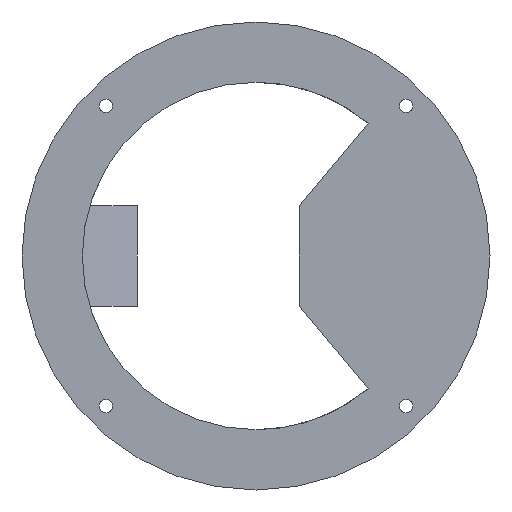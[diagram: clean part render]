
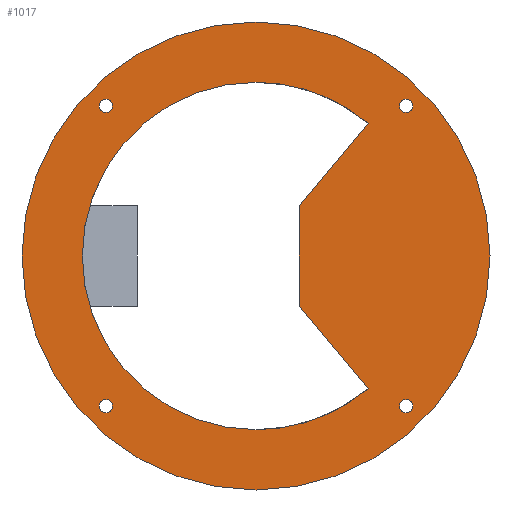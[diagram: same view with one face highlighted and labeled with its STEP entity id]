
A CAD part, front view. The second image highlights one B-rep face of the part: STEP entity #1017.
In plain terms, the highlighted planar face has unit normal (0, -1, 0).
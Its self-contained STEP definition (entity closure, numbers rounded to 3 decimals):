
#5 = DIRECTION ( 'NONE',  ( 0., 1., 0. ) ) ;
#10 = LINE ( 'NONE', #745, #635 ) ;
#24 = AXIS2_PLACEMENT_3D ( 'NONE', #359, #1328, #196 ) ;
#42 = AXIS2_PLACEMENT_3D ( 'NONE', #1684, #381, #954 ) ;
#61 = EDGE_CURVE ( 'NONE', #1746, #899, #1126, .T. ) ;
#68 = DIRECTION ( 'NONE',  ( 0., 1., 0. ) ) ;
#69 = DIRECTION ( 'NONE',  ( 0., 0., 1. ) ) ;
#72 = DIRECTION ( 'NONE',  ( 0., 1., 0. ) ) ;
#76 = ORIENTED_EDGE ( 'NONE', *, *, #1364, .T. ) ;
#88 = EDGE_CURVE ( 'NONE', #1719, #1680, #943, .T. ) ;
#105 = ORIENTED_EDGE ( 'NONE', *, *, #1243, .F. ) ;
#117 = CARTESIAN_POINT ( 'NONE',  ( 0., 0., 60.625 ) ) ;
#125 = DIRECTION ( 'NONE',  ( 0., 0., 1. ) ) ;
#132 = CARTESIAN_POINT ( 'NONE',  ( 0., 0., 0. ) ) ;
#155 = VERTEX_POINT ( 'NONE', #412 ) ;
#163 = CIRCLE ( 'NONE', #1122, 1.7 ) ;
#165 = VERTEX_POINT ( 'NONE', #117 ) ;
#173 = DIRECTION ( 'NONE',  ( 0., 0., 1. ) ) ;
#195 = ORIENTED_EDGE ( 'NONE', *, *, #1536, .T. ) ;
#196 = DIRECTION ( 'NONE',  ( 0., 0., 1. ) ) ;
#205 = CARTESIAN_POINT ( 'NONE',  ( 38.891, 0., -38.891 ) ) ;
#214 = CIRCLE ( 'NONE', #636, 45. ) ;
#221 = AXIS2_PLACEMENT_3D ( 'NONE', #1883, #541, #692 ) ;
#233 = CIRCLE ( 'NONE', #1778, 60.625 ) ;
#261 = DIRECTION ( 'NONE',  ( 0., 0., -1. ) ) ;
#269 = DIRECTION ( 'NONE',  ( 0., 0., 1. ) ) ;
#295 = CARTESIAN_POINT ( 'NONE',  ( -38.891, 0., -40.591 ) ) ;
#306 = CIRCLE ( 'NONE', #670, 1.7 ) ;
#310 = VECTOR ( 'NONE', #261, 1000. ) ;
#311 = EDGE_CURVE ( 'NONE', #155, #719, #553, .T. ) ;
#312 = ORIENTED_EDGE ( 'NONE', *, *, #1449, .T. ) ;
#317 = ORIENTED_EDGE ( 'NONE', *, *, #61, .T. ) ;
#354 = EDGE_LOOP ( 'NONE', ( #669, #76 ) ) ;
#359 = CARTESIAN_POINT ( 'NONE',  ( 0., 0., 0. ) ) ;
#376 = VERTEX_POINT ( 'NONE', #517 ) ;
#381 = DIRECTION ( 'NONE',  ( 0., 1., 0. ) ) ;
#398 = VERTEX_POINT ( 'NONE', #918 ) ;
#400 = FACE_BOUND ( 'NONE', #834, .T. ) ;
#412 = CARTESIAN_POINT ( 'NONE',  ( -38.891, 0., 37.191 ) ) ;
#430 = ORIENTED_EDGE ( 'NONE', *, *, #956, .F. ) ;
#448 = ORIENTED_EDGE ( 'NONE', *, *, #1143, .F. ) ;
#460 = ORIENTED_EDGE ( 'NONE', *, *, #1754, .T. ) ;
#464 = CARTESIAN_POINT ( 'NONE',  ( 0., 0., -45. ) ) ;
#476 = AXIS2_PLACEMENT_3D ( 'NONE', #936, #1809, #1527 ) ;
#487 = DIRECTION ( 'NONE',  ( 0., 1., 0. ) ) ;
#490 = DIRECTION ( 'NONE',  ( 0., 0., 1. ) ) ;
#496 = LINE ( 'NONE', #1221, #1712 ) ;
#501 = CARTESIAN_POINT ( 'NONE',  ( 38.891, 0., 38.891 ) ) ;
#507 = DIRECTION ( 'NONE',  ( 0., 0., 1. ) ) ;
#512 = FACE_OUTER_BOUND ( 'NONE', #648, .T. ) ;
#515 = CARTESIAN_POINT ( 'NONE',  ( 11.25, 0., -13. ) ) ;
#517 = CARTESIAN_POINT ( 'NONE',  ( 38.891, 0., 37.191 ) ) ;
#541 = DIRECTION ( 'NONE',  ( 0., 1., 0. ) ) ;
#544 = ORIENTED_EDGE ( 'NONE', *, *, #88, .T. ) ;
#547 = CARTESIAN_POINT ( 'NONE',  ( 29.067, 0., 34.352 ) ) ;
#553 = CIRCLE ( 'NONE', #221, 1.7 ) ;
#556 = EDGE_LOOP ( 'NONE', ( #681, #1804 ) ) ;
#597 = CARTESIAN_POINT ( 'NONE',  ( 38.891, 0., -37.191 ) ) ;
#623 = VERTEX_POINT ( 'NONE', #686 ) ;
#625 = VERTEX_POINT ( 'NONE', #547 ) ;
#635 = VECTOR ( 'NONE', #1739, 1000. ) ;
#636 = AXIS2_PLACEMENT_3D ( 'NONE', #1580, #1608, #125 ) ;
#648 = EDGE_LOOP ( 'NONE', ( #105, #430 ) ) ;
#656 = CIRCLE ( 'NONE', #1494, 1.7 ) ;
#661 = DIRECTION ( 'NONE',  ( 0.641, 0., -0.768 ) ) ;
#669 = ORIENTED_EDGE ( 'NONE', *, *, #1180, .T. ) ;
#670 = AXIS2_PLACEMENT_3D ( 'NONE', #205, #487, #1065 ) ;
#681 = ORIENTED_EDGE ( 'NONE', *, *, #1028, .T. ) ;
#686 = CARTESIAN_POINT ( 'NONE',  ( 38.891, 0., 40.591 ) ) ;
#688 = DIRECTION ( 'NONE',  ( 0., 0., 1. ) ) ;
#692 = DIRECTION ( 'NONE',  ( 0., 0., 1. ) ) ;
#719 = VERTEX_POINT ( 'NONE', #1630 ) ;
#743 = ORIENTED_EDGE ( 'NONE', *, *, #1845, .T. ) ;
#745 = CARTESIAN_POINT ( 'NONE',  ( 11.25, 0., 13. ) ) ;
#750 = CARTESIAN_POINT ( 'NONE',  ( -38.891, 0., 38.891 ) ) ;
#763 = VERTEX_POINT ( 'NONE', #597 ) ;
#767 = ORIENTED_EDGE ( 'NONE', *, *, #1721, .T. ) ;
#770 = DIRECTION ( 'NONE',  ( 0., 1., 0. ) ) ;
#771 = ORIENTED_EDGE ( 'NONE', *, *, #1340, .T. ) ;
#800 = CARTESIAN_POINT ( 'NONE',  ( 11.25, 0., 13. ) ) ;
#823 = CIRCLE ( 'NONE', #24, 60.625 ) ;
#834 = EDGE_LOOP ( 'NONE', ( #460, #767 ) ) ;
#835 = FACE_BOUND ( 'NONE', #1144, .T. ) ;
#837 = CARTESIAN_POINT ( 'NONE',  ( 0., 0., 0. ) ) ;
#871 = CARTESIAN_POINT ( 'NONE',  ( 0., 0., 0. ) ) ;
#899 = VERTEX_POINT ( 'NONE', #515 ) ;
#903 = CIRCLE ( 'NONE', #1082, 1.7 ) ;
#918 = CARTESIAN_POINT ( 'NONE',  ( 0., 0., -60.625 ) ) ;
#936 = CARTESIAN_POINT ( 'NONE',  ( 38.891, 0., 38.891 ) ) ;
#943 = CIRCLE ( 'NONE', #1748, 45. ) ;
#945 = DIRECTION ( 'NONE',  ( 0., 0., 1. ) ) ;
#954 = DIRECTION ( 'NONE',  ( 0., 0., 1. ) ) ;
#956 = EDGE_CURVE ( 'NONE', #165, #398, #233, .T. ) ;
#1016 = CARTESIAN_POINT ( 'NONE',  ( 38.891, 0., -40.591 ) ) ;
#1017 = ADVANCED_FACE ( 'NONE', ( #1112, #1722, #400, #1577, #512, #835 ), #1093, .F. ) ;
#1028 = EDGE_CURVE ( 'NONE', #719, #155, #656, .T. ) ;
#1053 = CIRCLE ( 'NONE', #1618, 45. ) ;
#1056 = CARTESIAN_POINT ( 'NONE',  ( 38.891, 0., -38.891 ) ) ;
#1065 = DIRECTION ( 'NONE',  ( 0., 0., 1. ) ) ;
#1073 = CARTESIAN_POINT ( 'NONE',  ( -38.891, 0., -38.891 ) ) ;
#1082 = AXIS2_PLACEMENT_3D ( 'NONE', #1073, #1672, #945 ) ;
#1093 = PLANE ( 'NONE',  #42 ) ;
#1107 = CARTESIAN_POINT ( 'NONE',  ( -38.891, 0., -37.191 ) ) ;
#1112 = FACE_BOUND ( 'NONE', #354, .T. ) ;
#1122 = AXIS2_PLACEMENT_3D ( 'NONE', #501, #72, #490 ) ;
#1124 = VERTEX_POINT ( 'NONE', #295 ) ;
#1126 = LINE ( 'NONE', #1447, #310 ) ;
#1134 = DIRECTION ( 'NONE',  ( 0., 1., 0. ) ) ;
#1143 = EDGE_CURVE ( 'NONE', #1746, #625, #10, .T. ) ;
#1144 = EDGE_LOOP ( 'NONE', ( #448, #317, #771, #544, #195, #312 ) ) ;
#1156 = CIRCLE ( 'NONE', #1469, 1.7 ) ;
#1180 = EDGE_CURVE ( 'NONE', #1814, #1124, #1526, .T. ) ;
#1221 = CARTESIAN_POINT ( 'NONE',  ( 11.25, 0., -13. ) ) ;
#1243 = EDGE_CURVE ( 'NONE', #398, #165, #823, .T. ) ;
#1304 = DIRECTION ( 'NONE',  ( 0., 1., 0. ) ) ;
#1325 = EDGE_CURVE ( 'NONE', #1522, #763, #306, .T. ) ;
#1328 = DIRECTION ( 'NONE',  ( 0., 1., 0. ) ) ;
#1340 = EDGE_CURVE ( 'NONE', #899, #1719, #496, .T. ) ;
#1364 = EDGE_CURVE ( 'NONE', #1124, #1814, #903, .T. ) ;
#1426 = DIRECTION ( 'NONE',  ( 0., 1., 0. ) ) ;
#1427 = DIRECTION ( 'NONE',  ( 0., 0., 1. ) ) ;
#1447 = CARTESIAN_POINT ( 'NONE',  ( 11.25, 0., 13. ) ) ;
#1449 = EDGE_CURVE ( 'NONE', #1632, #625, #214, .T. ) ;
#1466 = CIRCLE ( 'NONE', #476, 1.7 ) ;
#1469 = AXIS2_PLACEMENT_3D ( 'NONE', #1056, #68, #507 ) ;
#1494 = AXIS2_PLACEMENT_3D ( 'NONE', #750, #1304, #173 ) ;
#1500 = CARTESIAN_POINT ( 'NONE',  ( 0., 0., 45. ) ) ;
#1522 = VERTEX_POINT ( 'NONE', #1016 ) ;
#1526 = CIRCLE ( 'NONE', #1769, 1.7 ) ;
#1527 = DIRECTION ( 'NONE',  ( 0., 0., 1. ) ) ;
#1536 = EDGE_CURVE ( 'NONE', #1680, #1632, #1053, .T. ) ;
#1577 = FACE_BOUND ( 'NONE', #1658, .T. ) ;
#1580 = CARTESIAN_POINT ( 'NONE',  ( 0., 0., 0. ) ) ;
#1608 = DIRECTION ( 'NONE',  ( 0., 1., 0. ) ) ;
#1618 = AXIS2_PLACEMENT_3D ( 'NONE', #871, #5, #1427 ) ;
#1630 = CARTESIAN_POINT ( 'NONE',  ( -38.891, 0., 40.591 ) ) ;
#1632 = VERTEX_POINT ( 'NONE', #1500 ) ;
#1633 = ORIENTED_EDGE ( 'NONE', *, *, #1325, .T. ) ;
#1634 = CARTESIAN_POINT ( 'NONE',  ( -38.891, 0., -38.891 ) ) ;
#1636 = CARTESIAN_POINT ( 'NONE',  ( 29.067, 0., -34.352 ) ) ;
#1658 = EDGE_LOOP ( 'NONE', ( #743, #1633 ) ) ;
#1672 = DIRECTION ( 'NONE',  ( 0., 1., 0. ) ) ;
#1680 = VERTEX_POINT ( 'NONE', #464 ) ;
#1684 = CARTESIAN_POINT ( 'NONE',  ( 0., 0., 0. ) ) ;
#1712 = VECTOR ( 'NONE', #661, 1000. ) ;
#1719 = VERTEX_POINT ( 'NONE', #1636 ) ;
#1721 = EDGE_CURVE ( 'NONE', #376, #623, #1466, .T. ) ;
#1722 = FACE_BOUND ( 'NONE', #556, .T. ) ;
#1739 = DIRECTION ( 'NONE',  ( 0.641, 0., 0.768 ) ) ;
#1746 = VERTEX_POINT ( 'NONE', #800 ) ;
#1748 = AXIS2_PLACEMENT_3D ( 'NONE', #837, #1426, #269 ) ;
#1754 = EDGE_CURVE ( 'NONE', #623, #376, #163, .T. ) ;
#1769 = AXIS2_PLACEMENT_3D ( 'NONE', #1634, #770, #69 ) ;
#1778 = AXIS2_PLACEMENT_3D ( 'NONE', #132, #1134, #688 ) ;
#1804 = ORIENTED_EDGE ( 'NONE', *, *, #311, .T. ) ;
#1809 = DIRECTION ( 'NONE',  ( 0., 1., 0. ) ) ;
#1814 = VERTEX_POINT ( 'NONE', #1107 ) ;
#1845 = EDGE_CURVE ( 'NONE', #763, #1522, #1156, .T. ) ;
#1883 = CARTESIAN_POINT ( 'NONE',  ( -38.891, 0., 38.891 ) ) ;
